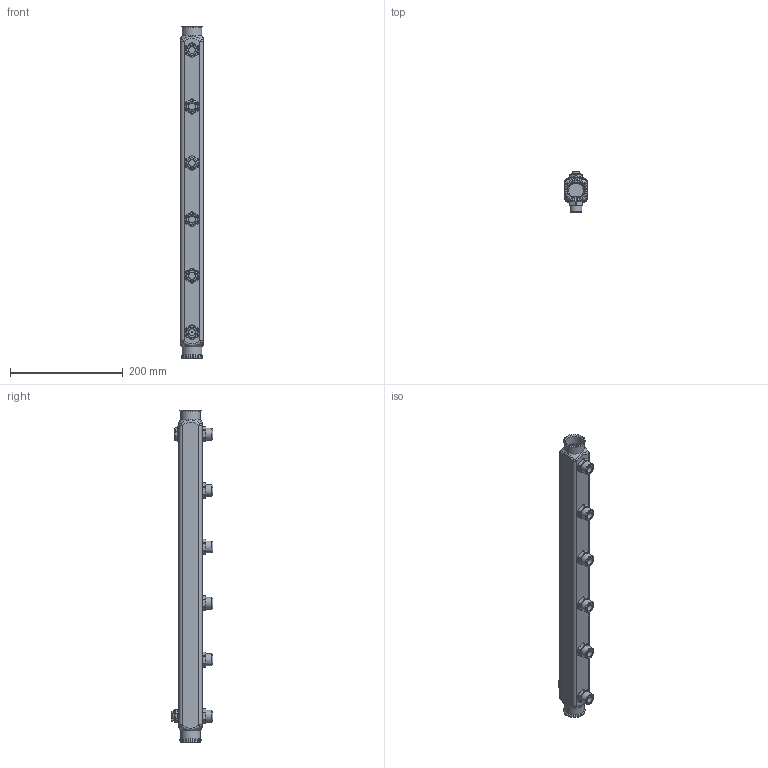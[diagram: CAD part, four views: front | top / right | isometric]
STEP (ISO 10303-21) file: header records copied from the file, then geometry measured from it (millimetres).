
FILE_DESCRIPTION(('STEP AP203'), '1');
FILE_NAME('VTc.510.SQ.060406', '2025-12-12T12:01:23', ('verevichevva'), ('Vesta'), 'C3D Converter', 'C3D Toolkit', '');
FILE_SCHEMA(('CONFIG_CONTROL_DESIGN'));
Length unit declared in the file: millimetre
Products named in the file (1): ВР.622621.196.000 СБ
Bounding box: 40 x 73.6 x 588.5 mm (x, y, z)
Volume: 190735.4 mm3; surface area: 197223.5 mm2
Topology: 1 solids, 20 shells, 887 faces, 2265 edges, 1451 vertices
Faces by surface type: plane 336, cone 161, cylinder 158, extrusion 118, bspline 72, torus 42
Full cylindrical faces by diameter (mm): 1.6 x1, 2.3 x1, 3.4 x1, 4.134 x1, 5 x1, 5.3 x1, 6.3 x2, 9.6 x1, 10.2 x1, 12 x6, 13 x1, 14 x1, 15.7 x1, 18 x7, 18.5 x1, 19 x8, 19.5 x1, 20 x1, 20.955 x13, 22 x1, 22.2 x8, 23 x1, 24 x1, 25.5 x1, 26 x1, 28 x1, 30 x2, 31.8 x3, 35 x2, 35.3 x2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
Entity records: 36014 total; most frequent: CARTESIAN_POINT 16371, ORIENTED_EDGE 4164, DIRECTION 3475, EDGE_CURVE 2082, VERTEX_POINT 1445, AXIS2_PLACEMENT_3D 1249, EDGE_LOOP 1143, VECTOR 977
